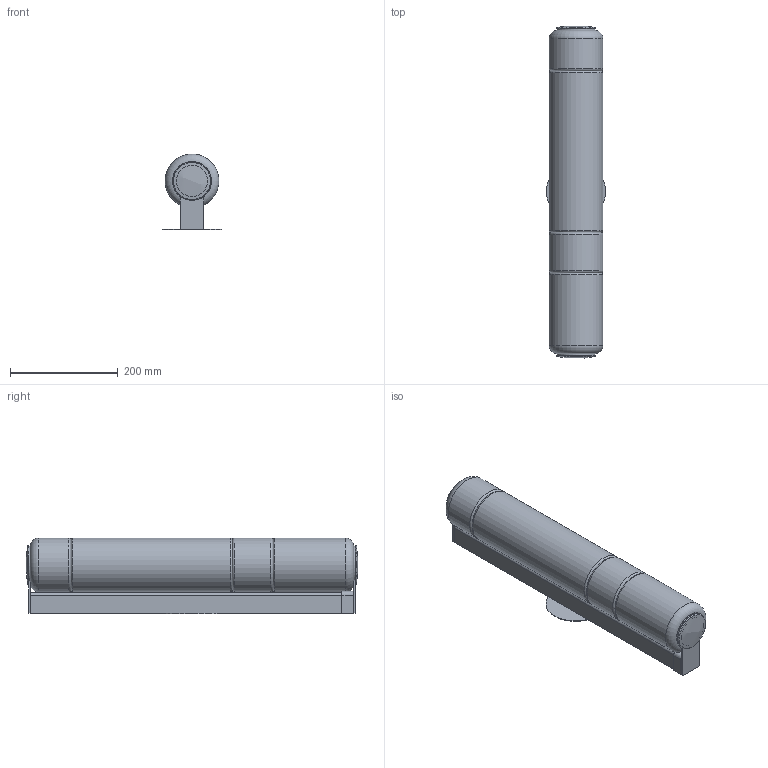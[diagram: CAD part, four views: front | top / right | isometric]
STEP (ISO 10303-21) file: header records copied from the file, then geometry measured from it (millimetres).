
FILE_DESCRIPTION(/* description */ ('APPLIQUE STACKING 60'),/* implementation_level */ '2;1');
FILE_NAME(/* name */ 'STACKING PL 60 US.stp',/* time_stamp */ '2025-02-05T14:26:23+01:00',/* author */ ('davide.turci'),/* organization */ (''),/* preprocessor_version */ 'ST-DEVELOPER v20',/* originating_system */ 'Autodesk Inventor 2025',/* authorisation */ '');
FILE_SCHEMA (('CONFIG_CONTROL_DESIGN'));
Length unit declared in the file: millimetre
Products named in the file (24): 343AZ2LD; 343C667; 343C600_B1; 343C670; 00343C398; 00343C407-B; 00343V004; 00343V005; 00343V002; 00343V001; 343C439; 343C638; B001; B002; ISO 4026 - M6 x 8(1); 343C668; 343C660-Master; 343C659; 343C657; X0023-020; 343C635-B; 343C671; 343C665; X0001
Assembly tree (24 placements, depth 3):
  343AZ2LD
    343C667
    343C600_B1
      343C670
      00343C398
      00343C407-B
      00343V004
      00343V005
      00343V002
      00343V001
    343C439
    343C638
    B001
    B002
    ISO 4026 - M6 x 8(1)
    343C668
    343C660-Master
      343C659
      343C657
      X0023-020  x2
    343C635-B
    343C671
    343C665
    X0001
Bounding box: 110 x 616.22 x 141 mm (x, y, z)
Volume: 1171576.2 mm3; surface area: 968872.8 mm2
Topology: 24 solids, 24 shells, 599 faces, 1475 edges, 951 vertices
Faces by surface type: cylinder 256, plane 234, torus 56, cone 48, sphere 5
Full cylindrical faces by diameter (mm): 2.459 x7, 3 x2, 3.2 x3, 3.4 x3, 3.5 x2, 4 x4, 4.5 x5, 4.917 x1, 5 x3, 5.917 x1, 6 x3, 7 x2, 9 x2, 10 x1, 10.5 x1, 12 x1, 12.917 x1, 13 x2, 14 x1, 15 x5, 20 x1, 25 x1, 54 x1, 55.5 x1, 60 x1, 61.5 x2, 62 x3, 65 x2, 66 x1, 67 x5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
Entity records: 18615 total; most frequent: DIRECTION 3355, CARTESIAN_POINT 3033, ORIENTED_EDGE 2846, EDGE_CURVE 1423, AXIS2_PLACEMENT_3D 1338, VERTEX_POINT 923, CIRCLE 711, EDGE_LOOP 696
